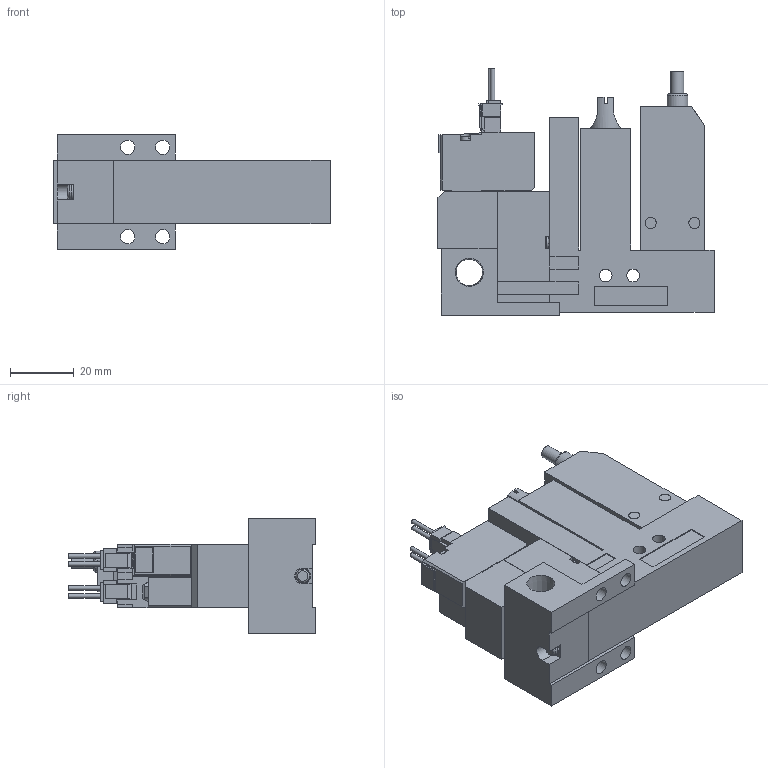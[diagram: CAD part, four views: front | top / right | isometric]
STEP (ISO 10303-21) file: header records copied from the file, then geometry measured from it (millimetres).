
FILE_DESCRIPTION(('STEP AP203'),'1');
FILE_NAME('ABS_ABPL5ALR101.stp','2025-02-18T05:22:32',(' '),(' '),'Spatial InterOp 3D',' ',' ');
FILE_SCHEMA(('CONFIG_CONTROL_DESIGN'));
Length unit declared in the file: millimetre
Products named in the file (5): BMC22M※※※※ABS_ABPL5ALR101; Solenoid valve A; Pressure sensor ABSL; Unit L; Base MR10R
Assembly tree (4 placements, depth 2):
  BMC22M※※※※ABS_ABPL5ALR101
    Solenoid valve A
    Pressure sensor ABSL
    Unit L
    Base MR10R
Bounding box: 86.6 x 77.45 x 36 mm (x, y, z)
Volume: 94865.9 mm3; surface area: 27641.2 mm2
Topology: 4 solids, 4 shells, 396 faces, 1063 edges, 701 vertices
Faces by surface type: plane 332, cylinder 51, cone 9, torus 4
Full cylindrical faces by diameter (mm): 1.4 x4, 2.5 x1, 3 x4, 3.5 x6, 3.6 x1, 4 x3, 4.134 x1, 4.5 x4, 5.2 x1, 6 x1, 6.5 x1, 6.6 x1, 8.279 x1
Entity records: 12279 total; most frequent: CARTESIAN_POINT 2231, ORIENTED_EDGE 2006, DIRECTION 1940, EDGE_CURVE 1003, LINE 858, VECTOR 858, VERTEX_POINT 687, AXIS2_PLACEMENT_3D 541
